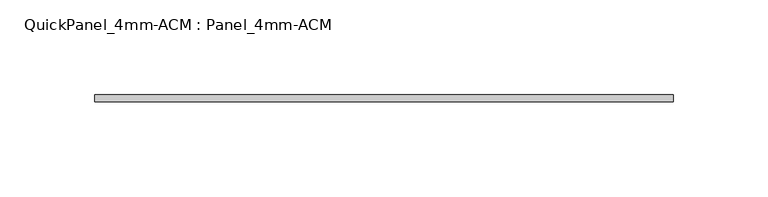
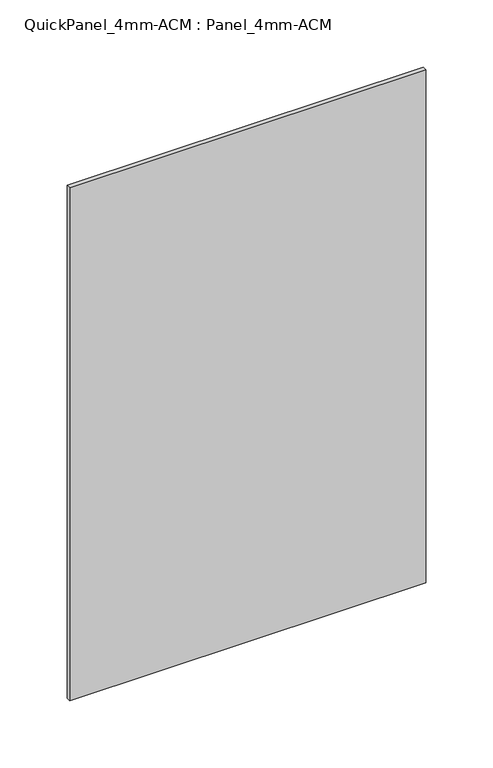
"""IFC4 building model written with IfcOpenShell, lengths in millimetres: plate geometry, QuickPanel_4mm-ACM : Panel_4mm-ACM."""

import ifcopenshell
import ifcopenshell.guid

model = None  # the IFC model being written
_history = None  # IfcOwnerHistory: only IFC2X3 demands one
_inside = {}  # id of a spatial element -> (the spatial element, [elements in it])
_under = {}  # id of a project, library or spatial element -> (it, [spatial elements below it])
_declared = {}  # id of a project -> (the project, [libraries it declares])
_typed = {}  # id of a type object -> (the type object, [elements of that type])
_made_of = {}  # id of a material, layer set ... -> (it, [elements and type objects made of it])


def new_model(schema):
    """Start an empty IFC model of exactly this schema.

    Asked for "IFC4X3", IfcOpenShell would pick the latest addendum, in which some entities
    have other attributes; the version numbers below select the first issue.
    IFC2X3 requires an IfcOwnerHistory on every rooted entity: one is made here for all.
    """
    global model, _history
    if schema == "IFC4X3":
        model = ifcopenshell.file(schema_version=(4, 3, 0, 0))
    else:
        model = ifcopenshell.file(schema=schema)
    _inside.clear()
    _under.clear()
    _declared.clear()
    _typed.clear()
    _made_of.clear()
    _history = None
    if model.schema == "IFC2X3":
        org = make("IfcOrganization", Name="unknown")
        user = make(
            "IfcPersonAndOrganization",
            ThePerson=make("IfcPerson", FamilyName="unknown"),
            TheOrganization=org,
        )
        app = make(
            "IfcApplication",
            ApplicationDeveloper=org,
            Version="unknown",
            ApplicationFullName="unknown",
            ApplicationIdentifier="unknown",
        )
        _history = make(
            "IfcOwnerHistory",
            OwningUser=user,
            OwningApplication=app,
            ChangeAction="ADDED",
            CreationDate=0,
        )
    return model


def make(cls, **values):
    """One entity of the class cls with the attributes given. An attribute that is None is left unset."""
    return model.create_entity(
        cls, **{name: value for name, value in values.items() if value is not None}
    )


def rooted(cls, **values):
    """An entity with a GlobalId (a new one), such as an element, a storey or a relation."""
    return make(cls, GlobalId=ifcopenshell.guid.new(), OwnerHistory=_history, **values)


def si_unit(unit_type, name, prefix=None):
    """IfcSIUnit, for example si_unit("LENGTHUNIT", "METRE", prefix="MILLI")."""
    return make("IfcSIUnit", UnitType=unit_type, Prefix=prefix, Name=name)


def assignment(units):
    """IfcUnitAssignment: the units of a project."""
    return None if units is None else make("IfcUnitAssignment", Units=units)


def point(xyz):
    """IfcCartesianPoint."""
    return None if xyz is None else make("IfcCartesianPoint", Coordinates=xyz)


def direction(xyz):
    """IfcDirection."""
    return None if xyz is None else make("IfcDirection", DirectionRatios=xyz)


def frame(location, z_axis=None, x_axis=None):
    """IfcAxis2Placement3D, a coordinate frame: its origin and axes. An axis left out is left unset."""
    return make(
        "IfcAxis2Placement3D",
        Location=point(location),
        Axis=direction(z_axis),
        RefDirection=direction(x_axis),
    )


def origin():
    """The frame at (0, 0, 0) with its axes left unset."""
    return frame((0.0, 0.0, 0.0))


def origin_with_axes():
    """The frame at (0, 0, 0) with the z axis (0, 0, 1) and the x axis (1, 0, 0) written out."""
    return frame((0.0, 0.0, 0.0), z_axis=(0.0, 0.0, 1.0), x_axis=(1.0, 0.0, 0.0))


def place(relative_to, where):
    """IfcLocalPlacement: puts the frame where relative to a parent placement (None: the world)."""
    return make(
        "IfcLocalPlacement", PlacementRelTo=relative_to, RelativePlacement=where
    )


def context(
    kind, dimensions, precision=None, world=None, true_north=None, identifier=None
):
    """IfcGeometricRepresentationContext, for example the 3D "Model" context."""
    return make(
        "IfcGeometricRepresentationContext",
        ContextIdentifier=identifier,
        ContextType=kind,
        CoordinateSpaceDimension=dimensions,
        Precision=precision,
        WorldCoordinateSystem=world,
        TrueNorth=true_north,
    )


def project(units=None, contexts=None):
    """IfcProject with its units and contexts."""
    return rooted(
        "IfcProject",
        Name="project",
        RepresentationContexts=contexts,
        UnitsInContext=assignment(units),
    )


def spatial(cls, under=None, at=None, **own):
    """A site, building, storey or space (cls), placed at a placement, below another one or the project."""
    s = rooted(cls, ObjectPlacement=at, **own)
    if under is not None:
        _under.setdefault(under.id(), (under, []))[1].append(s)
    return s


def polyline(points):
    """IfcPolyline through the points."""
    return make("IfcPolyline", Points=[point(p) for p in points])


def outline(outer, holes=None, kind="AREA"):
    """IfcArbitraryClosedProfileDef: a profile drawn as a closed curve; with holes, ...WithVoids."""
    if holes is None:
        return make("IfcArbitraryClosedProfileDef", ProfileType=kind, OuterCurve=outer)
    return make(
        "IfcArbitraryProfileDefWithVoids",
        ProfileType=kind,
        OuterCurve=outer,
        InnerCurves=holes,
    )


def extrude(swept, where, along, depth):
    """IfcExtrudedAreaSolid: the profile swept, set in the frame where, extruded along a direction by depth."""
    return make(
        "IfcExtrudedAreaSolid",
        SweptArea=swept,
        Position=where,
        ExtrudedDirection=direction(along),
        Depth=depth,
    )


def shape(context_of_items, identifier, shape_type, items):
    """IfcShapeRepresentation: the items that make up one representation, for example the "Body"."""
    return make(
        "IfcShapeRepresentation",
        ContextOfItems=context_of_items,
        RepresentationIdentifier=identifier,
        RepresentationType=shape_type,
        Items=items,
    )


def source(mapping_origin, context_of_items, identifier, shape_type, items):
    """IfcRepresentationMap: a shape defined once, which mapped items show again and again."""
    return make(
        "IfcRepresentationMap",
        MappingOrigin=mapping_origin,
        MappedRepresentation=shape(context_of_items, identifier, shape_type, items),
    )


def transform(
    local_origin,
    x_axis=None,
    y_axis=None,
    z_axis=None,
    scale=None,
    scale2=None,
    scale3=None,
    uniform=True,
):
    """IfcCartesianTransformationOperator3D, or its non-uniform kind. x_axis, y_axis, z_axis: its Axis1, 2, 3."""
    if uniform:
        return make(
            "IfcCartesianTransformationOperator3D",
            Axis1=direction(x_axis),
            Axis2=direction(y_axis),
            LocalOrigin=point(local_origin),
            Scale=scale,
            Axis3=direction(z_axis),
        )
    return make(
        "IfcCartesianTransformationOperator3DnonUniform",
        Axis1=direction(x_axis),
        Axis2=direction(y_axis),
        LocalOrigin=point(local_origin),
        Scale=scale,
        Axis3=direction(z_axis),
        Scale2=scale2,
        Scale3=scale3,
    )


def mapped(mapping_source, mapping_target):
    """IfcMappedItem: shows the shape of a source again, moved by a transform."""
    return make(
        "IfcMappedItem", MappingSource=mapping_source, MappingTarget=mapping_target
    )


def made_of(thing, what):
    """Note that an element or type object is made of a material, layer set ...; save() writes the relation."""
    if what is not None:
        _made_of.setdefault(what.id(), (what, []))[1].append(thing)
    return thing


def element(
    cls,
    number,
    at=None,
    inside=None,
    cuts=None,
    type_object=None,
    material=None,
    context=None,
    identifier="Body",
    shape_type=None,
    held_by="IfcProductDefinitionShape",
    body=None,
    shapes=None,
    **own,
):
    """One element of the class cls, such as IfcWall. Its Tag is "e" and its number.

    at: its placement. inside: the storey or other place that contains it. cuts: it is an
    opening in that element (IfcRelVoidsElement). A single representation is given by context,
    identifier, shape_type and body (its items); several are given by shapes. held_by: the class
    of the entity that holds the representations. save() writes the other relations.
    """
    e = rooted(cls, Tag="e%d" % number, ObjectPlacement=at, **own)
    if body is not None:
        shapes = [shape(context, identifier, shape_type, body)]
    if shapes is not None:
        e.Representation = make(held_by, Representations=shapes)
    if inside is not None:
        _inside.setdefault(inside.id(), (inside, []))[1].append(e)
    if cuts is not None:
        rooted(
            "IfcRelVoidsElement", RelatingBuildingElement=cuts, RelatedOpeningElement=e
        )
    if type_object is not None:
        _typed.setdefault(type_object.id(), (type_object, []))[1].append(e)
    return made_of(e, material)


def aggregate(whole, parts):
    """IfcRelAggregates: a whole, such as a stair, and the parts it consists of."""
    return rooted("IfcRelAggregates", RelatingObject=whole, RelatedObjects=parts)


def save(model, path):
    """Write the relations noted so far, then the file.

    IfcRelAggregates (storeys below a building ...), IfcRelContainedInSpatialStructure (elements
    in a storey), IfcRelDefinesByType, IfcRelAssociatesMaterial and IfcRelDeclares: one each for
    every whole, place, type object, material and project.
    """
    for whole, parts in _under.values():
        aggregate(whole, parts)
    for where, things in _inside.values():
        rooted(
            "IfcRelContainedInSpatialStructure",
            RelatedElements=things,
            RelatingStructure=where,
        )
    for kind, things in _typed.values():
        rooted("IfcRelDefinesByType", RelatedObjects=things, RelatingType=kind)
    for what, things in _made_of.values():
        rooted("IfcRelAssociatesMaterial", RelatedObjects=things, RelatingMaterial=what)
    for by, libraries in _declared.values():
        rooted("IfcRelDeclares", RelatingContext=by, RelatedDefinitions=libraries)
    model.write(path)


def quickpanel_4mm_acm_panel_4mm_acm_415f7794(model_context):
    return source(origin(), model_context, "Body", "SweptSolid", [
        extrude(outline(polyline([(-152.665908, -6.096), (152.665908, -6.096), (152.665908, -9.906), (-152.665908, -9.906), (-152.665908, -6.096)])), origin_with_axes(), (0.0, 0.0, 1.0), 465.5267351),
    ])


if __name__ == "__main__":
    model = new_model("IFC4")
    model_context = context("Model", 3, world=origin())
    ifc_project = project(units=[si_unit("LENGTHUNIT", "METRE", prefix="MILLI")], contexts=[model_context])
    site = spatial("IfcSite", under=ifc_project)
    building = spatial("IfcBuilding", under=site)
    placement = place(None, origin())
    quickpanel_4mm_acm_panel_4mm_acm_shape = quickpanel_4mm_acm_panel_4mm_acm_415f7794(model_context)
    element("IfcPlate", 1, ObjectType="QuickPanel_4mm-ACM : Panel_4mm-ACM", at=placement, inside=building, context=model_context, shape_type="MappedRepresentation", body=[
        mapped(quickpanel_4mm_acm_panel_4mm_acm_shape, transform((0.0, 0.0, 0.0), x_axis=(1.0, 0.0, 0.0), y_axis=(0.0, 1.0, 0.0), z_axis=(0.0, 0.0, 1.0))),
    ])
    save(model, "model.ifc")
